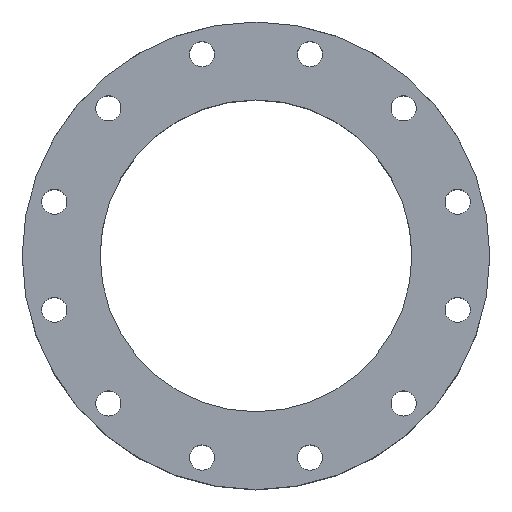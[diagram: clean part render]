
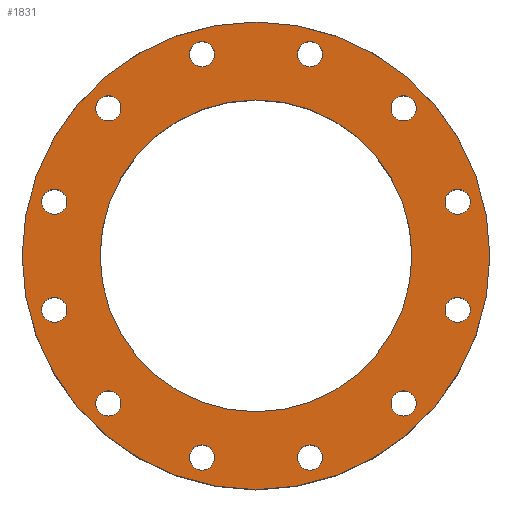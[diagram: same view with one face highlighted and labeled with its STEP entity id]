
A CAD part, top view. The second image highlights one B-rep face of the part: STEP entity #1831.
In plain terms, the highlighted planar face has unit normal (0, 0, 1).
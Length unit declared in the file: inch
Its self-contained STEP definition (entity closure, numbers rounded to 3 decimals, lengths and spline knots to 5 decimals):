
#48=FACE_BOUND('',#321,.T.);
#49=FACE_BOUND('',#322,.T.);
#50=FACE_BOUND('',#323,.T.);
#51=FACE_BOUND('',#324,.T.);
#52=FACE_BOUND('',#325,.T.);
#53=FACE_BOUND('',#326,.T.);
#54=FACE_BOUND('',#327,.T.);
#55=FACE_BOUND('',#328,.T.);
#56=FACE_BOUND('',#329,.T.);
#57=FACE_BOUND('',#330,.T.);
#58=FACE_BOUND('',#331,.T.);
#59=FACE_BOUND('',#332,.T.);
#60=FACE_BOUND('',#333,.T.);
#128=PLANE('',#2033);
#196=FACE_OUTER_BOUND('',#320,.T.);
#320=EDGE_LOOP('',(#1356));
#321=EDGE_LOOP('',(#1357));
#322=EDGE_LOOP('',(#1358));
#323=EDGE_LOOP('',(#1359));
#324=EDGE_LOOP('',(#1360));
#325=EDGE_LOOP('',(#1361));
#326=EDGE_LOOP('',(#1362));
#327=EDGE_LOOP('',(#1363));
#328=EDGE_LOOP('',(#1364));
#329=EDGE_LOOP('',(#1365));
#330=EDGE_LOOP('',(#1366));
#331=EDGE_LOOP('',(#1367));
#332=EDGE_LOOP('',(#1368));
#333=EDGE_LOOP('',(#1369));
#676=CIRCLE('',#1994,0.565);
#678=CIRCLE('',#1997,0.565);
#680=CIRCLE('',#2000,0.565);
#682=CIRCLE('',#2003,0.565);
#684=CIRCLE('',#2006,0.565);
#686=CIRCLE('',#2009,0.565);
#688=CIRCLE('',#2012,0.565);
#690=CIRCLE('',#2015,0.565);
#692=CIRCLE('',#2018,0.565);
#694=CIRCLE('',#2021,0.565);
#696=CIRCLE('',#2024,0.565);
#698=CIRCLE('',#2027,0.565);
#699=CIRCLE('',#2029,7.);
#701=CIRCLE('',#2032,10.5);
#816=VERTEX_POINT('',#2873);
#818=VERTEX_POINT('',#2879);
#820=VERTEX_POINT('',#2885);
#822=VERTEX_POINT('',#2891);
#824=VERTEX_POINT('',#2897);
#826=VERTEX_POINT('',#2903);
#828=VERTEX_POINT('',#2909);
#830=VERTEX_POINT('',#2915);
#832=VERTEX_POINT('',#2921);
#834=VERTEX_POINT('',#2927);
#836=VERTEX_POINT('',#2933);
#838=VERTEX_POINT('',#2939);
#839=VERTEX_POINT('',#2943);
#841=VERTEX_POINT('',#2949);
#997=EDGE_CURVE('',#816,#816,#676,.T.);
#1000=EDGE_CURVE('',#818,#818,#678,.T.);
#1003=EDGE_CURVE('',#820,#820,#680,.T.);
#1006=EDGE_CURVE('',#822,#822,#682,.T.);
#1009=EDGE_CURVE('',#824,#824,#684,.T.);
#1012=EDGE_CURVE('',#826,#826,#686,.T.);
#1015=EDGE_CURVE('',#828,#828,#688,.T.);
#1018=EDGE_CURVE('',#830,#830,#690,.T.);
#1021=EDGE_CURVE('',#832,#832,#692,.T.);
#1024=EDGE_CURVE('',#834,#834,#694,.T.);
#1027=EDGE_CURVE('',#836,#836,#696,.T.);
#1030=EDGE_CURVE('',#838,#838,#698,.T.);
#1031=EDGE_CURVE('',#839,#839,#699,.T.);
#1035=EDGE_CURVE('',#841,#841,#701,.T.);
#1356=ORIENTED_EDGE('',*,*,#1035,.F.);
#1357=ORIENTED_EDGE('',*,*,#997,.T.);
#1358=ORIENTED_EDGE('',*,*,#1000,.T.);
#1359=ORIENTED_EDGE('',*,*,#1003,.T.);
#1360=ORIENTED_EDGE('',*,*,#1006,.T.);
#1361=ORIENTED_EDGE('',*,*,#1009,.T.);
#1362=ORIENTED_EDGE('',*,*,#1012,.T.);
#1363=ORIENTED_EDGE('',*,*,#1015,.T.);
#1364=ORIENTED_EDGE('',*,*,#1018,.T.);
#1365=ORIENTED_EDGE('',*,*,#1021,.T.);
#1366=ORIENTED_EDGE('',*,*,#1024,.T.);
#1367=ORIENTED_EDGE('',*,*,#1027,.T.);
#1368=ORIENTED_EDGE('',*,*,#1030,.T.);
#1369=ORIENTED_EDGE('',*,*,#1031,.T.);
#1831=ADVANCED_FACE('',(#196,#48,#49,#50,#51,#52,#53,#54,#55,#56,#57,#58,
#59,#60),#128,.F.);
#1994=AXIS2_PLACEMENT_3D('',#2875,#2342,#2343);
#1997=AXIS2_PLACEMENT_3D('',#2881,#2349,#2350);
#2000=AXIS2_PLACEMENT_3D('',#2887,#2356,#2357);
#2003=AXIS2_PLACEMENT_3D('',#2893,#2363,#2364);
#2006=AXIS2_PLACEMENT_3D('',#2899,#2370,#2371);
#2009=AXIS2_PLACEMENT_3D('',#2905,#2377,#2378);
#2012=AXIS2_PLACEMENT_3D('',#2911,#2384,#2385);
#2015=AXIS2_PLACEMENT_3D('',#2917,#2391,#2392);
#2018=AXIS2_PLACEMENT_3D('',#2923,#2398,#2399);
#2021=AXIS2_PLACEMENT_3D('',#2929,#2405,#2406);
#2024=AXIS2_PLACEMENT_3D('',#2935,#2412,#2413);
#2027=AXIS2_PLACEMENT_3D('',#2941,#2419,#2420);
#2029=AXIS2_PLACEMENT_3D('',#2944,#2423,#2424);
#2032=AXIS2_PLACEMENT_3D('',#2951,#2431,#2432);
#2033=AXIS2_PLACEMENT_3D('',#2952,#2433,#2434);
#2342=DIRECTION('center_axis',(0.,0.,
-1.));
#2343=DIRECTION('ref_axis',(0.5,-0.866,0.));
#2349=DIRECTION('center_axis',(0.,0.,
-1.));
#2350=DIRECTION('ref_axis',(0.,-1.,0.));
#2356=DIRECTION('center_axis',(0.,0.,
-1.));
#2357=DIRECTION('ref_axis',(-0.5,-0.866,0.));
#2363=DIRECTION('center_axis',(0.,0.,
-1.));
#2364=DIRECTION('ref_axis',(-0.866,-0.5,0.));
#2370=DIRECTION('center_axis',(0.,0.,
-1.));
#2371=DIRECTION('ref_axis',(-1.,0.,0.));
#2377=DIRECTION('center_axis',(0.,0.,
-1.));
#2378=DIRECTION('ref_axis',(-0.866,0.5,0.));
#2384=DIRECTION('center_axis',(0.,0.,
-1.));
#2385=DIRECTION('ref_axis',(-0.5,0.866,0.));
#2391=DIRECTION('center_axis',(0.,0.,
-1.));
#2392=DIRECTION('ref_axis',(0.,1.,0.));
#2398=DIRECTION('center_axis',(0.,0.,
-1.));
#2399=DIRECTION('ref_axis',(0.5,0.866,0.));
#2405=DIRECTION('center_axis',(0.,0.,
-1.));
#2406=DIRECTION('ref_axis',(0.866,0.5,0.));
#2412=DIRECTION('center_axis',(0.,0.,
-1.));
#2413=DIRECTION('ref_axis',(0.866,-0.5,0.));
#2419=DIRECTION('center_axis',(0.,0.,
-1.));
#2420=DIRECTION('ref_axis',(1.,0.,0.));
#2423=DIRECTION('center_axis',(0.,0.,
-1.));
#2424=DIRECTION('ref_axis',(-1.,0.,0.));
#2431=DIRECTION('center_axis',(0.,0.,
-1.));
#2432=DIRECTION('ref_axis',(1.,0.,0.));
#2433=DIRECTION('center_axis',(0.,0.,
-1.));
#2434=DIRECTION('ref_axis',(1.,0.,0.));
#2873=CARTESIAN_POINT('',(-9.33805,-1.93712,4.));
#2875=CARTESIAN_POINT('Origin',(-9.05555,-2.42643,4.));
#2879=CARTESIAN_POINT('',(-9.05555,2.99143,4.));
#2881=CARTESIAN_POINT('Origin',(-9.05555,2.42643,4.));
#2885=CARTESIAN_POINT('',(-6.34663,7.11843,4.));
#2887=CARTESIAN_POINT('Origin',(-6.62913,6.62913,4.));
#2891=CARTESIAN_POINT('',(-1.93712,9.33805,4.));
#2893=CARTESIAN_POINT('Origin',(-2.42643,9.05555,4.));
#2897=CARTESIAN_POINT('',(2.99143,9.05555,4.));
#2899=CARTESIAN_POINT('Origin',(2.42643,9.05555,4.));
#2903=CARTESIAN_POINT('',(7.11843,6.34663,4.));
#2905=CARTESIAN_POINT('Origin',(6.62913,6.62913,4.));
#2909=CARTESIAN_POINT('',(9.33805,1.93712,4.));
#2911=CARTESIAN_POINT('Origin',(9.05555,2.42643,4.));
#2915=CARTESIAN_POINT('',(9.05555,-2.99143,4.));
#2917=CARTESIAN_POINT('Origin',(9.05555,-2.42643,4.));
#2921=CARTESIAN_POINT('',(6.34663,-7.11843,4.));
#2923=CARTESIAN_POINT('Origin',(6.62913,-6.62913,4.));
#2927=CARTESIAN_POINT('',(1.93712,-9.33805,4.));
#2929=CARTESIAN_POINT('Origin',(2.42643,-9.05555,4.));
#2933=CARTESIAN_POINT('',(-7.11843,-6.34663,4.));
#2935=CARTESIAN_POINT('Origin',(-6.62913,-6.62913,4.));
#2939=CARTESIAN_POINT('',(-2.99143,-9.05555,4.));
#2941=CARTESIAN_POINT('Origin',(-2.42643,-9.05555,4.));
#2943=CARTESIAN_POINT('',(7.,0.,4.));
#2944=CARTESIAN_POINT('Origin',(0.,0.,
4.));
#2949=CARTESIAN_POINT('',(-10.5,0.,4.));
#2951=CARTESIAN_POINT('Origin',(0.,0.,
4.));
#2952=CARTESIAN_POINT('Origin',(0.,0.,
4.));
